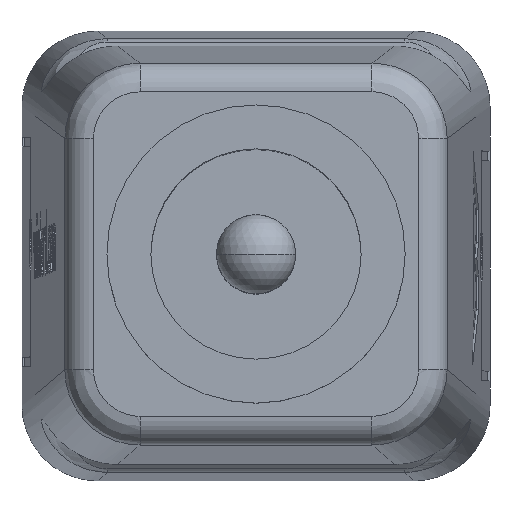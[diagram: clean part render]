
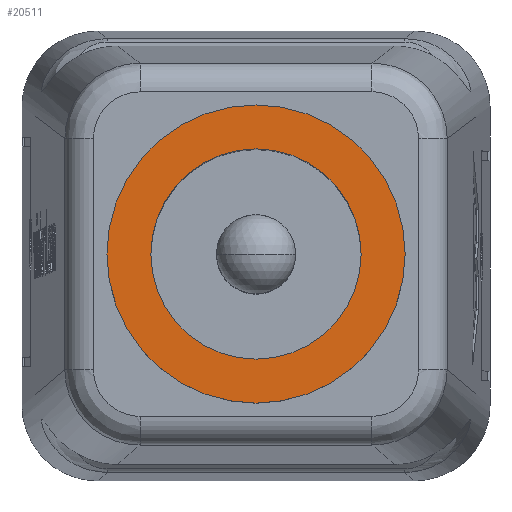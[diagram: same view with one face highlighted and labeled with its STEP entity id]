
A CAD part, top view. The second image highlights one B-rep face of the part: STEP entity #20511.
In plain terms, the highlighted planar face has unit normal (0, 0, 1).
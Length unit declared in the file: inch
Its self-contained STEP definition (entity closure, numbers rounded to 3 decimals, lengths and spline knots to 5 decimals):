
#698 = DIRECTION ( 'NONE',  ( 1., 0., 0. ) ) ;
#904 = DIRECTION ( 'NONE',  ( 1., 0., 0. ) ) ;
#2243 = EDGE_CURVE ( 'NONE', #23627, #14203, #23951, .T. ) ;
#2632 = ORIENTED_EDGE ( 'NONE', *, *, #12150, .T. ) ;
#2938 = CIRCLE ( 'NONE', #18711, 0.156 ) ;
#3393 = DIRECTION ( 'NONE',  ( 0., 0., 1. ) ) ;
#6296 = DIRECTION ( 'NONE',  ( 0., 0., 1. ) ) ;
#7439 = CARTESIAN_POINT ( 'NONE',  ( -0.74176, -0.05217, 0.9677 ) ) ;
#9528 = ORIENTED_EDGE ( 'NONE', *, *, #2243, .T. ) ;
#10326 = ORIENTED_EDGE ( 'NONE', *, *, #24223, .F. ) ;
#10862 = PLANE ( 'NONE',  #27631 ) ;
#11265 = VERTEX_POINT ( 'NONE', #22788 ) ;
#12150 = EDGE_CURVE ( 'NONE', #14203, #23627, #2938, .T. ) ;
#12184 = DIRECTION ( 'NONE',  ( 1., 0., 0. ) ) ;
#12556 = FACE_OUTER_BOUND ( 'NONE', #29193, .T. ) ;
#13041 = CIRCLE ( 'NONE', #15734, 0.11 ) ;
#13995 = AXIS2_PLACEMENT_3D ( 'NONE', #7439, #23990, #12184 ) ;
#14203 = VERTEX_POINT ( 'NONE', #24403 ) ;
#14700 = AXIS2_PLACEMENT_3D ( 'NONE', #29208, #15059, #904 ) ;
#15059 = DIRECTION ( 'NONE',  ( 0., 0., 1. ) ) ;
#15391 = CARTESIAN_POINT ( 'NONE',  ( -0.58576, -0.05217, 0.9677 ) ) ;
#15496 = DIRECTION ( 'NONE',  ( 1., 0., 0. ) ) ;
#15734 = AXIS2_PLACEMENT_3D ( 'NONE', #29010, #3393, #698 ) ;
#17006 = FACE_BOUND ( 'NONE', #17814, .T. ) ;
#17668 = CIRCLE ( 'NONE', #14700, 0.11 ) ;
#17814 = EDGE_LOOP ( 'NONE', ( #10326, #26705 ) ) ;
#18302 = DIRECTION ( 'NONE',  ( 0., 0., 1. ) ) ;
#18711 = AXIS2_PLACEMENT_3D ( 'NONE', #25421, #6296, #15496 ) ;
#18950 = EDGE_CURVE ( 'NONE', #11265, #21967, #13041, .T. ) ;
#20511 = ADVANCED_FACE ( 'NONE', ( #12556, #17006 ), #10862, .T. ) ;
#21967 = VERTEX_POINT ( 'NONE', #25497 ) ;
#22788 = CARTESIAN_POINT ( 'NONE',  ( -0.63176, -0.05217, 0.9677 ) ) ;
#23038 = DIRECTION ( 'NONE',  ( 1., 0., 0. ) ) ;
#23627 = VERTEX_POINT ( 'NONE', #15391 ) ;
#23951 = CIRCLE ( 'NONE', #13995, 0.156 ) ;
#23990 = DIRECTION ( 'NONE',  ( 0., 0., 1. ) ) ;
#24223 = EDGE_CURVE ( 'NONE', #21967, #11265, #17668, .T. ) ;
#24403 = CARTESIAN_POINT ( 'NONE',  ( -0.89776, -0.05217, 0.9677 ) ) ;
#25421 = CARTESIAN_POINT ( 'NONE',  ( -0.74176, -0.05217, 0.9677 ) ) ;
#25497 = CARTESIAN_POINT ( 'NONE',  ( -0.85176, -0.05217, 0.9677 ) ) ;
#26705 = ORIENTED_EDGE ( 'NONE', *, *, #18950, .F. ) ;
#27483 = CARTESIAN_POINT ( 'NONE',  ( -0.74176, -0.05217, 0.9677 ) ) ;
#27631 = AXIS2_PLACEMENT_3D ( 'NONE', #27483, #18302, #23038 ) ;
#29010 = CARTESIAN_POINT ( 'NONE',  ( -0.74176, -0.05217, 0.9677 ) ) ;
#29193 = EDGE_LOOP ( 'NONE', ( #2632, #9528 ) ) ;
#29208 = CARTESIAN_POINT ( 'NONE',  ( -0.74176, -0.05217, 0.9677 ) ) ;
